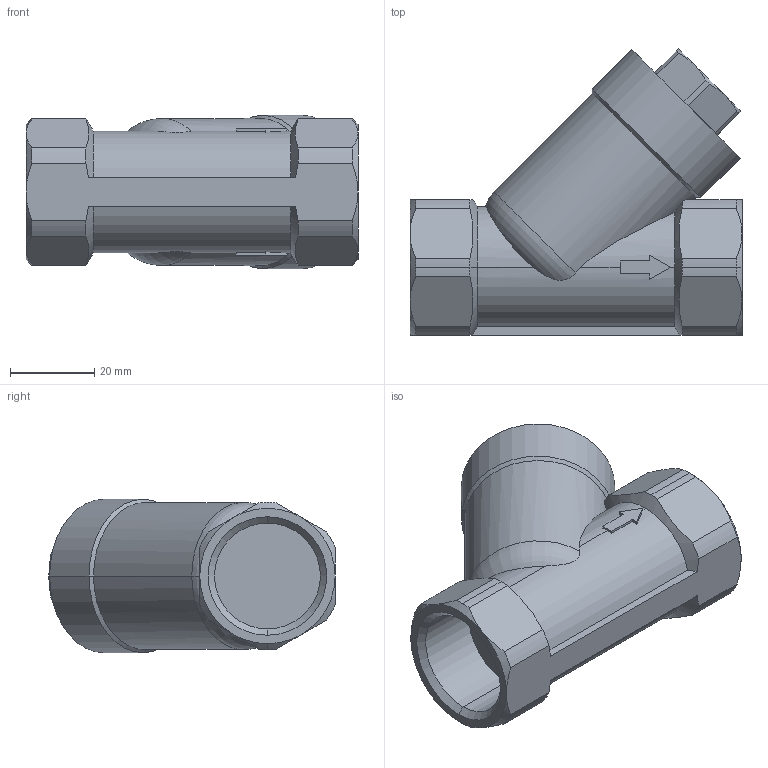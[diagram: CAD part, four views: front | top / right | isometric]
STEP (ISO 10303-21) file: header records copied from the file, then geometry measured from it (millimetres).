
FILE_DESCRIPTION (( 'STEP AP203' ), '1' );
FILE_NAME ('Y6.623020FNC.STEP', '2018-12-14T07:53:15', ( 'dell2' ), ( 'Microsoft' ), 'SwSTEP 2.0', 'SolidWorks 2017', '' );
FILE_SCHEMA (( 'CONFIG_CONTROL_DESIGN' ));
Length unit declared in the file: millimetre
Products named in the file (1): Y6.623020FNC
Bounding box: 79 x 68.1 x 36.5 mm (x, y, z)
Volume: 85172.8 mm3; surface area: 17100.1 mm2
Topology: 1 solids, 1 shells, 108 faces, 275 edges, 172 vertices
Faces by surface type: plane 41, cylinder 33, cone 32, torus 2
Entity records: 3736 total; most frequent: CARTESIAN_POINT 1119, ORIENTED_EDGE 550, DIRECTION 521, EDGE_CURVE 275, AXIS2_PLACEMENT_3D 208, VERTEX_POINT 172, EDGE_LOOP 111, FACE_OUTER_BOUND 108
